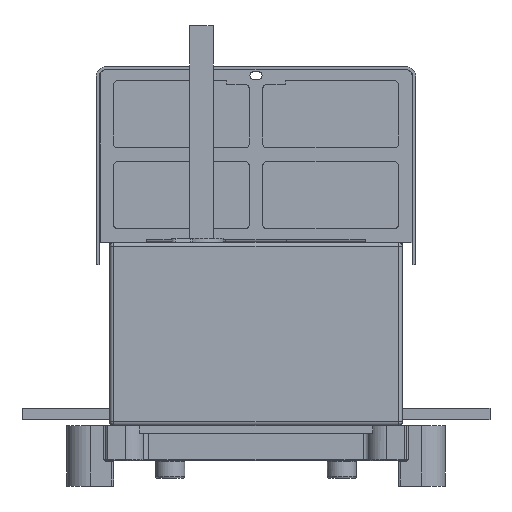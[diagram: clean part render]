
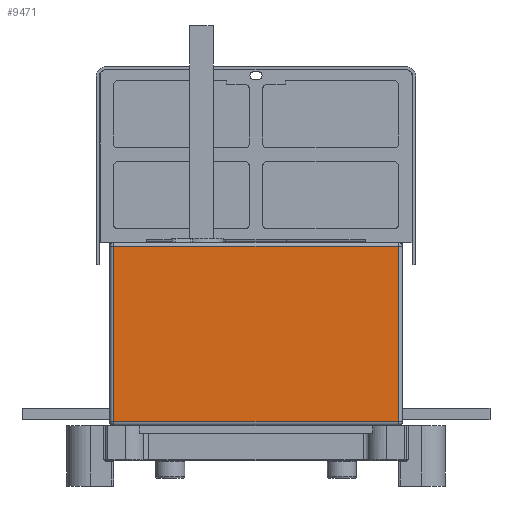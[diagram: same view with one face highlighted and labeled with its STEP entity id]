
A CAD part, left-side view. The second image highlights one B-rep face of the part: STEP entity #9471.
In plain terms, the highlighted planar face has unit normal (-1, 0, 0).
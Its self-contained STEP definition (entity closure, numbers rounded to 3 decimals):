
#2880=LINE('',#50053,#5624);
#2885=LINE('',#50074,#5629);
#2888=LINE('',#50097,#5632);
#2895=LINE('',#50107,#5639);
#5624=VECTOR('',#38577,1.);
#5629=VECTOR('',#38602,1.);
#5632=VECTOR('',#38631,1.);
#5639=VECTOR('',#38644,1.);
#6568=PLANE('',#30889);
#7941=FACE_OUTER_BOUND('',#12271,.T.);
#9471=ADVANCED_FACE('',(#7941),#6568,.F.);
#12271=EDGE_LOOP('',(#19598,#19599,#19600,#19601));
#19598=ORIENTED_EDGE('',*,*,#27031,.T.);
#19599=ORIENTED_EDGE('',*,*,#27013,.T.);
#19600=ORIENTED_EDGE('',*,*,#27024,.T.);
#19601=ORIENTED_EDGE('',*,*,#27002,.T.);
#23103=VERTEX_POINT('',#50039);
#23107=VERTEX_POINT('',#50050);
#23112=VERTEX_POINT('',#50067);
#23113=VERTEX_POINT('',#50071);
#27002=EDGE_CURVE('',#23107,#23103,#2880,.T.);
#27013=EDGE_CURVE('',#23113,#23112,#2885,.T.);
#27024=EDGE_CURVE('',#23112,#23107,#2888,.T.);
#27031=EDGE_CURVE('',#23103,#23113,#2895,.T.);
#30889=AXIS2_PLACEMENT_3D('',#50160,#38689,#38690);
#38577=DIRECTION('',(0.,1.,0.));
#38602=DIRECTION('',(0.,-1.,0.));
#38631=DIRECTION('',(0.,0.,1.));
#38644=DIRECTION('',(0.,0.,-1.));
#38689=DIRECTION('',(1.,0.,0.));
#38690=DIRECTION('',(0.,1.,0.));
#50039=CARTESIAN_POINT('',(-150.,73.,92.));
#50050=CARTESIAN_POINT('',(-150.,-73.,92.));
#50053=CARTESIAN_POINT('',(-150.,73.,92.));
#50067=CARTESIAN_POINT('',(-150.,-73.,2.));
#50071=CARTESIAN_POINT('',(-150.,73.,2.));
#50074=CARTESIAN_POINT('',(-150.,75.,2.));
#50097=CARTESIAN_POINT('',(-150.,-73.,94.));
#50107=CARTESIAN_POINT('',(-150.,73.,94.));
#50160=CARTESIAN_POINT('',(-150.,75.,94.));
